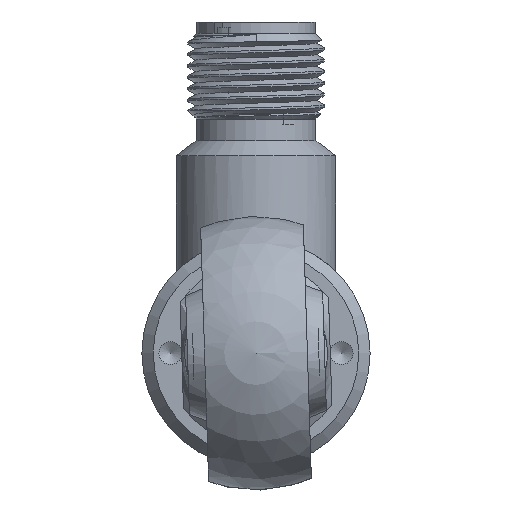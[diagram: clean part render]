
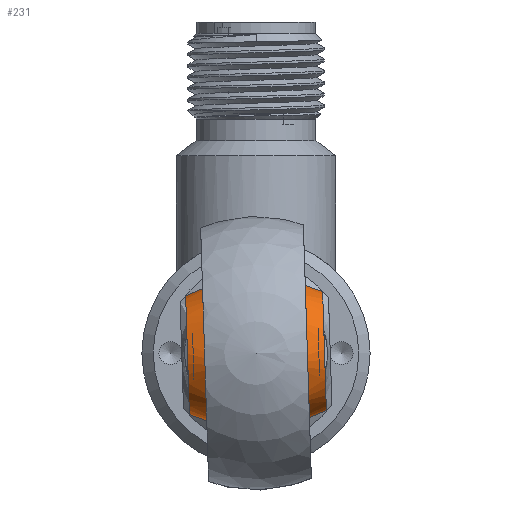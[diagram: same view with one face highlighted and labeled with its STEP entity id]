
A CAD part, left-side view. The second image highlights one B-rep face of the part: STEP entity #231.
In plain terms, the highlighted free-form (B-spline) face has degree [3, 3] with [4, 7] control points.
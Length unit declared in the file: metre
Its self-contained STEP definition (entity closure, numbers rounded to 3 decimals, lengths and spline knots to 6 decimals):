
#231 = ADVANCED_FACE( '', ( #513, #514 ), #515, .T. );
#513 = FACE_OUTER_BOUND( '', #1547, .T. );
#514 = FACE_OUTER_BOUND( '', #1548, .T. );
#515 = ( B_SPLINE_SURFACE( 3, 3, ( ( #1550, #1551, #1552, #1553, #1554, #1555, #1556 ), ( #1557, #1558, #1559, #1560, #1561, #1562, #1563 ), ( #1564, #1565, #1566, #1567, #1568, #1569, #1570 ), ( #1571, #1572, #1573, #1574, #1575, #1576, #1577 ) ), .UNSPECIFIED., .F., .T., .F. )B_SPLINE_SURFACE_WITH_KNOTS( ( 4, 4 ), ( 4, 3, 4 ), ( 0., 6.283185 ), ( -0.582914, 0., 0.582914 ), .UNSPECIFIED. )RATIONAL_B_SPLINE_SURFACE( ( ( 1., 0.333, 0.333, 1., 0.333, 0.333, 1. ), ( 0.89, 0.297, 0.297, 0.89, 0.297, 0.297, 0.89 ), ( 0.89, 0.297, 0.297, 0.89, 0.297, 0.297, 0.89 ), ( 1., 0.333, 0.333, 1., 0.333, 0.333, 1. ) ) )BOUNDED_SURFACE(  )REPRESENTATION_ITEM( '' )GEOMETRIC_REPRESENTATION_ITEM(  )SURFACE(  ) );
#1547 = EDGE_LOOP( '', ( #2656 ) );
#1548 = EDGE_LOOP( '', ( #2657 ) );
#1550 = CARTESIAN_POINT( '', ( -0.324857, 0.006021, 0.00058 ) );
#1551 = CARTESIAN_POINT( '', ( -0.323318, 0.005697, -0.0097 ) );
#1552 = CARTESIAN_POINT( '', ( -0.333603, 0.005648, -0.011239 ) );
#1553 = CARTESIAN_POINT( '', ( -0.335143, 0.005973, -0.000959 ) );
#1554 = CARTESIAN_POINT( '', ( -0.336682, 0.006297, 0.009322 ) );
#1555 = CARTESIAN_POINT( '', ( -0.326397, 0.006346, 0.01086 ) );
#1556 = CARTESIAN_POINT( '', ( -0.324857, 0.006021, 0.00058 ) );
#1557 = CARTESIAN_POINT( '', ( -0.32241, 0.002282, 0.001065 ) );
#1558 = CARTESIAN_POINT( '', ( -0.320138, 0.001803, -0.014107 ) );
#1559 = CARTESIAN_POINT( '', ( -0.335318, 0.001732, -0.016378 ) );
#1560 = CARTESIAN_POINT( '', ( -0.33759, 0.00221, -0.001206 ) );
#1561 = CARTESIAN_POINT( '', ( -0.339862, 0.002689, 0.013965 ) );
#1562 = CARTESIAN_POINT( '', ( -0.324682, 0.002761, 0.016236 ) );
#1563 = CARTESIAN_POINT( '', ( -0.32241, 0.002282, 0.001065 ) );
#1564 = CARTESIAN_POINT( '', ( -0.32241, -0.00221, 0.001206 ) );
#1565 = CARTESIAN_POINT( '', ( -0.320138, -0.002689, -0.013965 ) );
#1566 = CARTESIAN_POINT( '', ( -0.335318, -0.002761, -0.016236 ) );
#1567 = CARTESIAN_POINT( '', ( -0.33759, -0.002282, -0.001065 ) );
#1568 = CARTESIAN_POINT( '', ( -0.339862, -0.001803, 0.014107 ) );
#1569 = CARTESIAN_POINT( '', ( -0.324682, -0.001732, 0.016378 ) );
#1570 = CARTESIAN_POINT( '', ( -0.32241, -0.00221, 0.001206 ) );
#1571 = CARTESIAN_POINT( '', ( -0.324857, -0.005973, 0.000959 ) );
#1572 = CARTESIAN_POINT( '', ( -0.323318, -0.006297, -0.009322 ) );
#1573 = CARTESIAN_POINT( '', ( -0.333603, -0.006346, -0.01086 ) );
#1574 = CARTESIAN_POINT( '', ( -0.335143, -0.006021, -0.00058 ) );
#1575 = CARTESIAN_POINT( '', ( -0.336682, -0.005697, 0.0097 ) );
#1576 = CARTESIAN_POINT( '', ( -0.326397, -0.005648, 0.011239 ) );
#1577 = CARTESIAN_POINT( '', ( -0.324857, -0.005973, 0.000959 ) );
#2656 = ORIENTED_EDGE( '', *, *, #3383, .F. );
#2657 = ORIENTED_EDGE( '', *, *, #3411, .T. );
#3383 = EDGE_CURVE( '', #3900, #3900, #3901, .T. );
#3411 = EDGE_CURVE( '', #3950, #3950, #3951, .T. );
#3900 = VERTEX_POINT( '', #5557 );
#3901 = CIRCLE( '', #5558, 0.0052 );
#3950 = VERTEX_POINT( '', #5754 );
#3951 = CIRCLE( '', #5755, 0.0052 );
#5557 = CARTESIAN_POINT( '', ( -0.324857, 0.006021, 0.00058 ) );
#5558 = AXIS2_PLACEMENT_3D( '', #9218, #9219, #9220 );
#5754 = CARTESIAN_POINT( '', ( -0.324857, -0.005973, 0.000959 ) );
#5755 = AXIS2_PLACEMENT_3D( '', #9255, #9256, #9257 );
#9218 = CARTESIAN_POINT( '', ( -0.33, 0.005997, -0.000189 ) );
#9219 = DIRECTION( '', ( 0., 1., -0.032 ) );
#9220 = DIRECTION( '', ( 0.989, 0.005, 0.148 ) );
#9255 = CARTESIAN_POINT( '', ( -0.33, -0.005997, 0.000189 ) );
#9256 = DIRECTION( '', ( 0., 1., -0.032 ) );
#9257 = DIRECTION( '', ( 0.989, 0.005, 0.148 ) );
